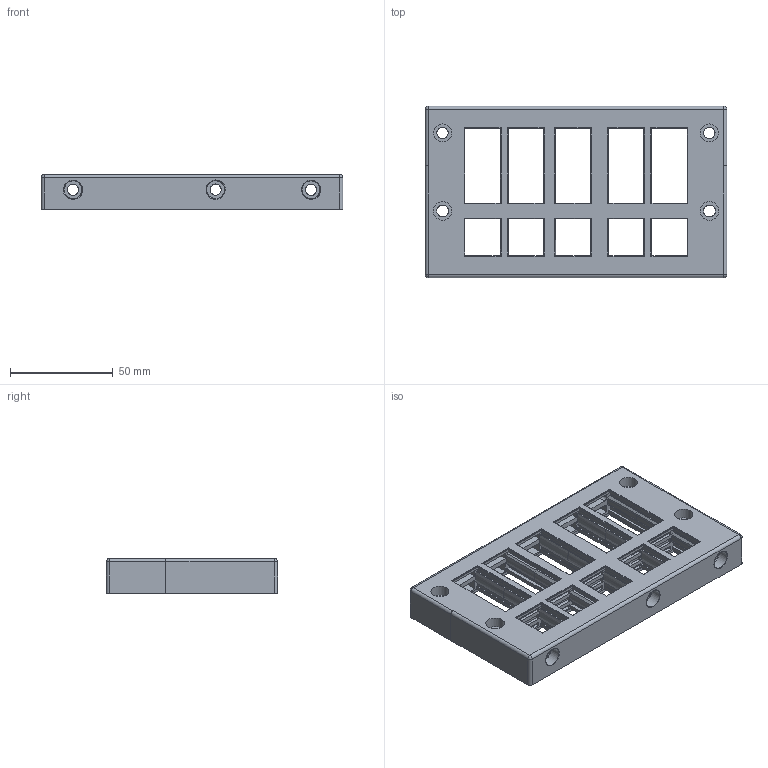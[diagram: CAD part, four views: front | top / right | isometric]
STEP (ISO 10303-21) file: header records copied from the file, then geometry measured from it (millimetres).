
FILE_DESCRIPTION (( 'STEP AP203' ), '1' );
FILE_NAME ('042209 KBL 24-15-E.STEP', '2023-04-13T03:06:27', ( '' ), ( '' ), 'SwSTEP 2.0', 'SolidWorks 2016', '' );
FILE_SCHEMA (( 'CONFIG_CONTROL_DESIGN' ));
Products named in the file (1): 042209 KBL 24-15-E
Bounding box: 147.05 x 83.5 x 17 mm (x, y, z)
Volume: 83935.8 mm3; surface area: 60432.1 mm2
Topology: 1 solids, 13 shells, 1315 faces, 3656 edges, 2386 vertices
Faces by surface type: plane 948, cylinder 265, bspline 58, cone 44
Full cylindrical faces by diameter (mm): 1.8 x4, 2 x6, 5.5 x6, 5.55 x2, 5.8 x2, 8.8 x2, 9 x5
Entity records: 60000 total; most frequent: CARTESIAN_POINT 28212, ORIENTED_EDGE 7164, DIRECTION 5483, EDGE_CURVE 3582, VECTOR 2627, LINE 2627, VERTEX_POINT 2373, EDGE_LOOP 1453
